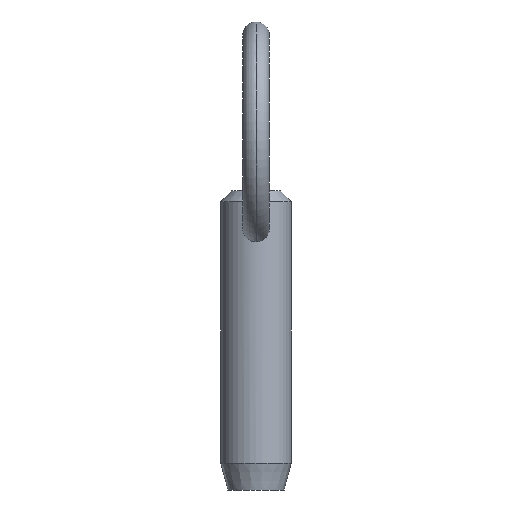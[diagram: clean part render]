
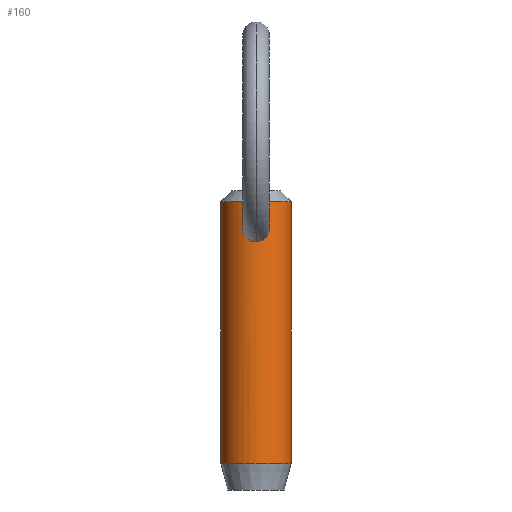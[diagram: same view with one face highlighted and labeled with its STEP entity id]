
A CAD part, front view. The second image highlights one B-rep face of the part: STEP entity #160.
In plain terms, the highlighted cylindrical face has radius 3.965 mm (diameter 7.93 mm), a partial arc.
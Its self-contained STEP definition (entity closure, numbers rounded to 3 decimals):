
#2 = CARTESIAN_POINT ( 'NONE',  ( -3.965, 0., 17.8 ) ) ;
#3 = CARTESIAN_POINT ( 'NONE',  ( 0.782, -3.888, 18.637 ) ) ;
#4 = DIRECTION ( 'NONE',  ( -1., 0., 0. ) ) ;
#6 = VECTOR ( 'NONE', #80, 1000. ) ;
#7 = CARTESIAN_POINT ( 'NONE',  ( -0.925, -3.858, 21.268 ) ) ;
#20 = LINE ( 'NONE', #2, #6 ) ;
#23 = CARTESIAN_POINT ( 'NONE',  ( 0.404, -3.946, 21.582 ) ) ;
#26 = CARTESIAN_POINT ( 'NONE',  ( 0.102, -3.965, 21.647 ) ) ;
#28 = ORIENTED_EDGE ( 'NONE', *, *, #137, .T. ) ;
#34 = VERTEX_POINT ( 'NONE', #104 ) ;
#48 = CARTESIAN_POINT ( 'NONE',  ( -0.102, -3.965, 21.647 ) ) ;
#66 = CARTESIAN_POINT ( 'NONE',  ( 1.186, -3.786, 20.959 ) ) ;
#75 = CARTESIAN_POINT ( 'NONE',  ( 1.503, -3.669, 19.899 ) ) ;
#76 = CARTESIAN_POINT ( 'NONE',  ( 1.447, -3.692, 19.493 ) ) ;
#80 = DIRECTION ( 'NONE',  ( 0., 0., -1. ) ) ;
#82 = CARTESIAN_POINT ( 'NONE',  ( -1.229, -3.77, 19.039 ) ) ;
#84 = EDGE_LOOP ( 'NONE', ( #383, #369 ) ) ;
#104 = CARTESIAN_POINT ( 'NONE',  ( 3.965, 0., 22.95 ) ) ;
#111 = VERTEX_POINT ( 'NONE', #145 ) ;
#114 = EDGE_CURVE ( 'NONE', #479, #228, #455, .T. ) ;
#123 = CARTESIAN_POINT ( 'NONE',  ( 3.965, 0., 17.8 ) ) ;
#125 = CARTESIAN_POINT ( 'NONE',  ( -1.48, -3.679, 19.589 ) ) ;
#128 = AXIS2_PLACEMENT_3D ( 'NONE', #250, #296, #4 ) ;
#129 = CARTESIAN_POINT ( 'NONE',  ( -0.957, -3.85, 18.741 ) ) ;
#137 = EDGE_CURVE ( 'NONE', #111, #244, #274, .T. ) ;
#138 = CYLINDRICAL_SURFACE ( 'NONE', #128, 3.965 ) ;
#145 = CARTESIAN_POINT ( 'NONE',  ( -3.965, 0., -6.52 ) ) ;
#149 = CARTESIAN_POINT ( 'NONE',  ( 1.291, -3.75, 20.783 ) ) ;
#157 = CARTESIAN_POINT ( 'NONE',  ( 1.471, -3.682, 19.594 ) ) ;
#160 = ADVANCED_FACE ( 'NONE', ( #484, #404 ), #138, .T. ) ;
#163 = CARTESIAN_POINT ( 'NONE',  ( -1.186, -3.786, 20.96 ) ) ;
#166 = AXIS2_PLACEMENT_3D ( 'NONE', #442, #246, #199 ) ;
#170 = EDGE_CURVE ( 'NONE', #200, #111, #20, .T. ) ;
#171 = CARTESIAN_POINT ( 'NONE',  ( 0., -3.965, 21.647 ) ) ;
#174 = DIRECTION ( 'NONE',  ( 1., 0., 0. ) ) ;
#195 = EDGE_CURVE ( 'NONE', #34, #200, #429, .T. ) ;
#199 = DIRECTION ( 'NONE',  ( -1., 0., 0. ) ) ;
#200 = VERTEX_POINT ( 'NONE', #264 ) ;
#201 = AXIS2_PLACEMENT_3D ( 'NONE', #378, #456, #174 ) ;
#206 = CARTESIAN_POINT ( 'NONE',  ( -0.206, -3.961, 21.634 ) ) ;
#211 = CARTESIAN_POINT ( 'NONE',  ( -1.488, -3.675, 20.205 ) ) ;
#214 = EDGE_CURVE ( 'NONE', #34, #244, #242, .T. ) ;
#224 = CARTESIAN_POINT ( 'NONE',  ( 0., -3.965, 21.647 ) ) ;
#228 = VERTEX_POINT ( 'NONE', #423 ) ;
#236 = CARTESIAN_POINT ( 'NONE',  ( 0.205, -3.961, 21.634 ) ) ;
#242 = LINE ( 'NONE', #123, #464 ) ;
#244 = VERTEX_POINT ( 'NONE', #316 ) ;
#246 = DIRECTION ( 'NONE',  ( 0., 0., 1. ) ) ;
#250 = CARTESIAN_POINT ( 'NONE',  ( 0., 0., 17.8 ) ) ;
#257 = CARTESIAN_POINT ( 'NONE',  ( -1.335, -3.734, 19.21 ) ) ;
#261 = CARTESIAN_POINT ( 'NONE',  ( -1.29, -3.75, 20.785 ) ) ;
#264 = CARTESIAN_POINT ( 'NONE',  ( -3.965, 0., 22.95 ) ) ;
#265 = EDGE_CURVE ( 'NONE', #228, #479, #311, .T. ) ;
#266 = CARTESIAN_POINT ( 'NONE',  ( -0.498, -3.935, 21.544 ) ) ;
#274 = CIRCLE ( 'NONE', #166, 3.965 ) ;
#280 = CARTESIAN_POINT ( 'NONE',  ( 1.479, -3.679, 20.207 ) ) ;
#281 = CARTESIAN_POINT ( 'NONE',  ( -0.205, -3.965, 18.435 ) ) ;
#296 = DIRECTION ( 'NONE',  ( 0., 0., -1. ) ) ;
#298 = CARTESIAN_POINT ( 'NONE',  ( -0.403, -3.946, 21.582 ) ) ;
#303 = CARTESIAN_POINT ( 'NONE',  ( -1.168, -3.79, 18.959 ) ) ;
#311 = B_SPLINE_CURVE_WITH_KNOTS ( 'NONE', 3,
 ( #435, #281, #363, #336, #129, #303, #82, #257, #422, #125, #420, #211, #482, #261, #163, #7, #487, #266, #298, #206, #48, #171 ),
 .UNSPECIFIED., .F., .F.,
 ( 4, 2, 2, 2, 2, 2, 2, 2, 2, 2, 4 ),
 ( 0.009, 0.01, 0.01, 0.011, 0.011, 0.012, 0.012, 0.013, 0.013, 0.014, 0.014 ),
 .UNSPECIFIED. ) ;
#316 = CARTESIAN_POINT ( 'NONE',  ( 3.965, 0., -6.52 ) ) ;
#318 = CARTESIAN_POINT ( 'NONE',  ( 0.498, -3.935, 21.544 ) ) ;
#320 = CARTESIAN_POINT ( 'NONE',  ( 0.925, -3.858, 21.268 ) ) ;
#336 = CARTESIAN_POINT ( 'NONE',  ( -0.788, -3.891, 18.628 ) ) ;
#362 = CARTESIAN_POINT ( 'NONE',  ( 1.493, -3.673, 20.104 ) ) ;
#363 = CARTESIAN_POINT ( 'NONE',  ( -0.41, -3.948, 18.474 ) ) ;
#369 = ORIENTED_EDGE ( 'NONE', *, *, #265, .T. ) ;
#371 = CARTESIAN_POINT ( 'NONE',  ( 1.028, -3.83, 18.815 ) ) ;
#372 = CARTESIAN_POINT ( 'NONE',  ( 0.693, -3.905, 18.59 ) ) ;
#378 = CARTESIAN_POINT ( 'NONE',  ( 0., 0., 22.95 ) ) ;
#383 = ORIENTED_EDGE ( 'NONE', *, *, #114, .T. ) ;
#396 = ORIENTED_EDGE ( 'NONE', *, *, #195, .T. ) ;
#400 = CARTESIAN_POINT ( 'NONE',  ( 0.77, -3.894, 21.4 ) ) ;
#404 = FACE_BOUND ( 'NONE', #84, .T. ) ;
#407 = CARTESIAN_POINT ( 'NONE',  ( 0.205, -3.965, 18.435 ) ) ;
#410 = CARTESIAN_POINT ( 'NONE',  ( 1.346, -3.73, 19.208 ) ) ;
#417 = DIRECTION ( 'NONE',  ( 0., 0., -1. ) ) ;
#420 = CARTESIAN_POINT ( 'NONE',  ( -1.508, -3.667, 19.797 ) ) ;
#422 = CARTESIAN_POINT ( 'NONE',  ( -1.379, -3.718, 19.303 ) ) ;
#423 = CARTESIAN_POINT ( 'NONE',  ( 0., -3.965, 18.435 ) ) ;
#429 = CIRCLE ( 'NONE', #201, 3.965 ) ;
#432 = ORIENTED_EDGE ( 'NONE', *, *, #214, .F. ) ;
#435 = CARTESIAN_POINT ( 'NONE',  ( 0., -3.965, 18.435 ) ) ;
#442 = CARTESIAN_POINT ( 'NONE',  ( 0., 0., -6.52 ) ) ;
#443 = ORIENTED_EDGE ( 'NONE', *, *, #170, .T. ) ;
#444 = CARTESIAN_POINT ( 'NONE',  ( 1.237, -3.77, 19.031 ) ) ;
#446 = CARTESIAN_POINT ( 'NONE',  ( 0., -3.965, 18.435 ) ) ;
#455 = B_SPLINE_CURVE_WITH_KNOTS ( 'NONE', 3,
 ( #502, #26, #236, #23, #318, #400, #320, #66, #149, #467, #504, #280, #362, #75, #475, #157, #76, #410, #444, #371, #476, #3, #372, #512, #407, #446 ),
 .UNSPECIFIED., .F., .F.,
 ( 4, 2, 2, 2, 2, 2, 2, 2, 2, 2, 2, 2, 4 ),
 ( 0.004, 0.005, 0.005, 0.005, 0.006, 0.006, 0.007, 0.007, 0.007, 0.008, 0.008, 0.008, 0.009 ),
 .UNSPECIFIED. ) ;
#456 = DIRECTION ( 'NONE',  ( 0., 0., -1. ) ) ;
#464 = VECTOR ( 'NONE', #417, 1000. ) ;
#467 = CARTESIAN_POINT ( 'NONE',  ( 1.404, -3.708, 20.501 ) ) ;
#475 = CARTESIAN_POINT ( 'NONE',  ( 1.499, -3.671, 19.797 ) ) ;
#476 = CARTESIAN_POINT ( 'NONE',  ( 0.949, -3.851, 18.749 ) ) ;
#479 = VERTEX_POINT ( 'NONE', #224 ) ;
#482 = CARTESIAN_POINT ( 'NONE',  ( -1.441, -3.695, 20.408 ) ) ;
#484 = FACE_OUTER_BOUND ( 'NONE', #495, .T. ) ;
#487 = CARTESIAN_POINT ( 'NONE',  ( -0.77, -3.894, 21.4 ) ) ;
#495 = EDGE_LOOP ( 'NONE', ( #432, #396, #443, #28 ) ) ;
#502 = CARTESIAN_POINT ( 'NONE',  ( 0., -3.965, 21.647 ) ) ;
#504 = CARTESIAN_POINT ( 'NONE',  ( 1.434, -3.697, 20.405 ) ) ;
#512 = CARTESIAN_POINT ( 'NONE',  ( 0.409, -3.948, 18.474 ) ) ;
